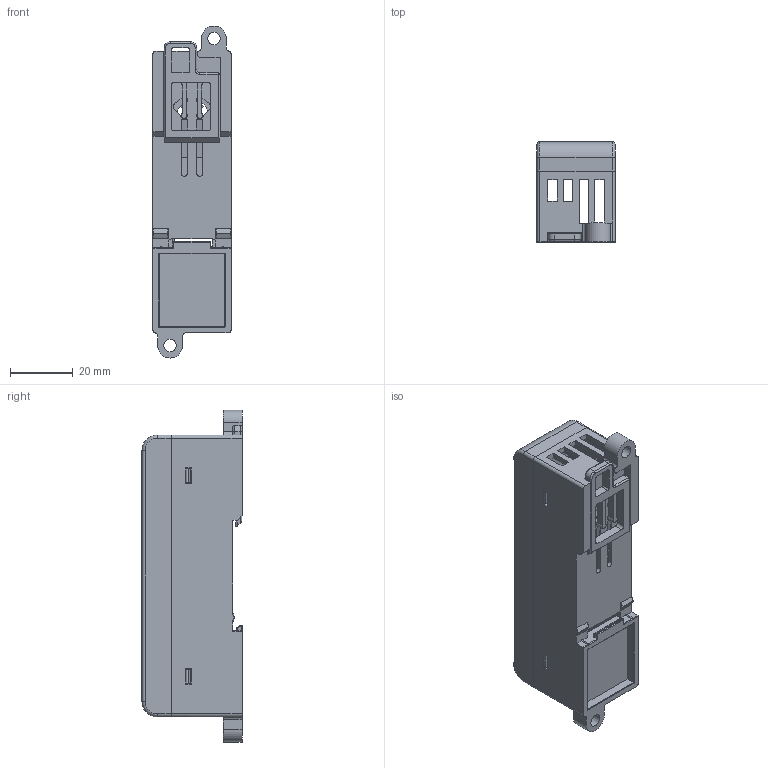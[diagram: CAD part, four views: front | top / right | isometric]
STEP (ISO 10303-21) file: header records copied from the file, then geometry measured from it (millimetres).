
FILE_DESCRIPTION((''),'2;1');
FILE_NAME('B1-CM_ASM','2021-06-09T',('Jacky Chang'),('ME Department of NTUST'),'PRO/ENGINEER BY PARAMETRIC TECHNOLOGY CORPORATION, 2014200','PRO/ENGINEER BY PARAMETRIC TECHNOLOGY CORPORATION, 2014200','');
FILE_SCHEMA(('CONFIG_CONTROL_DESIGN','GEOMETRIC_VALIDATION_PROPERTIES_MIM'));
Length unit declared in the file: millimetre
Products named in the file (5): B1-25E_UP_COVER; B1-CM_DOWN_COVER_NEW; DIN-RAIL-NEW; B1-CM_DOWN_COVER_NEW_ASM; B1-CM_ASM
Assembly tree (4 placements, depth 3):
  B1-CM_ASM
    B1-25E_UP_COVER
    B1-CM_DOWN_COVER_NEW_ASM
      B1-CM_DOWN_COVER_NEW
      DIN-RAIL-NEW
Bounding box: 25 x 32 x 106 mm (x, y, z)
Volume: 19554.6 mm3; surface area: 24717.5 mm2
Topology: 3 solids, 3 shells, 635 faces, 1798 edges, 1158 vertices
Faces by surface type: plane 445, cylinder 156, sphere 16, torus 14, bspline 4
Entity records: 26282 total; most frequent: CARTESIAN_POINT 3838, ORIENTED_EDGE 3596, DIRECTION 3359, PRESENTATION_STYLE_ASSIGNMENT 1801, STYLED_ITEM 1801, CURVE_STYLE 1798, EDGE_CURVE 1798, VECTOR 1447
